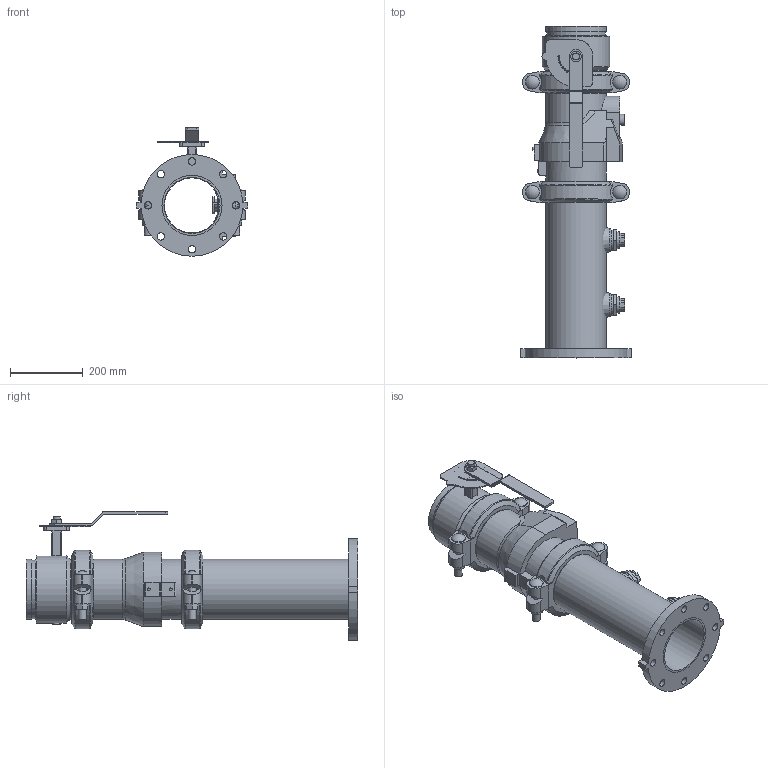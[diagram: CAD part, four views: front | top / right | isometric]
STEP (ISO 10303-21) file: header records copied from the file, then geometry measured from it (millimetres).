
FILE_DESCRIPTION(/* description */ ('VIC DVI PUMP DROP VERT S/390 (OGSxFLG)','CAx-IF Rec.Pracs.---Representation and Presentation of Product Manufacturing Information (PMI)---4.0---2014-10-13'),/* implementation_level */ '2;1');
FILE_NAME(/* name */ 'C:\Users\Vjadhav\AppData\Roaming\Autodesk\ApplicationPlugins\Back Up\Victaulic_IPS_Vertical DVI_PN10_Series 390 (OGSxFLG)\Victaulic_IPS_Vertical DVI_PN10_Series 390 (OGSxFLG)_06.0 (165.1)x06.0 (165.1) (150x150).stp',/* time_stamp */ '2020-11-09T17:51:05+05:00',/* author */ ('Vjadhav'),/* organization */ ('Victaulic'),/* preprocessor_version */ 'ST-DEVELOPER v17.2',/* originating_system */ 'Autodesk Inventor 2019',/* authorisation */ '');
FILE_SCHEMA (('AP242_MANAGED_MODEL_BASED_3D_ENGINEERING_MIM_LF { 1 0 10303 442 1 1 4 }'));
Length unit declared in the file: inch
Products named in the file (7): 390-06.0 (165.1)x06.0 (165.1); 741-06.0 (165.1); Pipe-06.0 (165.1)x06.0 (165.1); 177N-06.0 (165.1); 761-06.0 (165.1); 716-06.0 (165.1); 923-04.0x0.75
Assembly tree (8 placements, depth 2):
  390-06.0 (165.1)x06.0 (165.1)
    741-06.0 (165.1)
    Pipe-06.0 (165.1)x06.0 (165.1)
    177N-06.0 (165.1)  x2
    761-06.0 (165.1)
    716-06.0 (165.1)
    923-04.0x0.75  x2
Bounding box: 304.8 x 911.1 x 352.81 mm (x, y, z)
Volume: 8776197.2 mm3; surface area: 1552080.5 mm2
Topology: 8 solids, 9 shells, 499 faces, 1311 edges, 875 vertices
Faces by surface type: plane 295, cylinder 171, cone 14, torus 13, sphere 4, bspline 2
Full cylindrical faces by diameter (mm): 4.826 x10, 7.62 x2, 8.636 x4, 19.05 x2, 20.066 x8, 21.209 x4, 22.86 x1, 26.67 x2, 30.48 x1, 37.694 x4, 45.974 x4, 55.118 x1, 55.626 x2, 150.876 x1, 152.4 x2, 153.975 x1, 154.051 x1, 160.782 x6, 165.1 x16, 185.42 x1
Entity records: 11923 total; most frequent: CARTESIAN_POINT 2302, DIRECTION 1969, ORIENTED_EDGE 1824, EDGE_CURVE 912, AXIS2_PLACEMENT_3D 732, VERTEX_POINT 611, LINE 505, VECTOR 505
